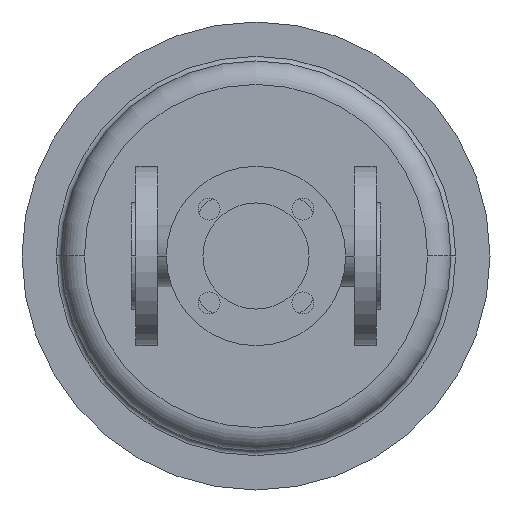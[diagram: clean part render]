
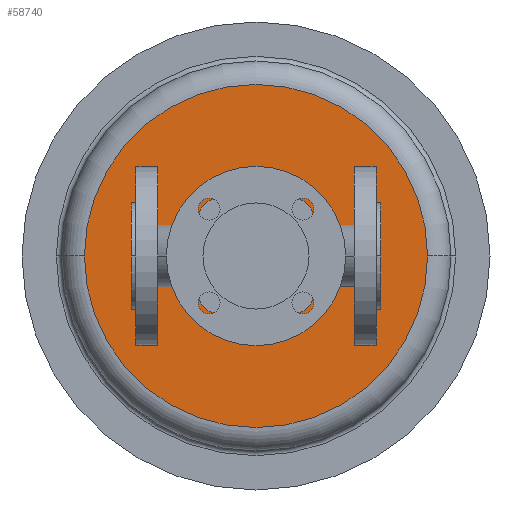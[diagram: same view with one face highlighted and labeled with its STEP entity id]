
A CAD part, front view. The second image highlights one B-rep face of the part: STEP entity #58740.
In plain terms, the highlighted planar face has unit normal (0, -1, 0).
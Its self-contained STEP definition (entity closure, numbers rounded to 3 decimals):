
#48650=CARTESIAN_POINT('',(190.,545.,0.));
#48660=VERTEX_POINT('',#48650);
#48690=CARTESIAN_POINT('',(80.,545.,0.));
#48700=DIRECTION('',(0.,1.,0.));
#48710=DIRECTION('',(1.,0.,0.));
#48720=AXIS2_PLACEMENT_3D('',#48690,#48700,#48710);
#48730=CIRCLE('',#48720,110.);
#48740=CARTESIAN_POINT('',(80.,545.,110.));
#48750=VERTEX_POINT('',#48740);
#48760=EDGE_CURVE('',#48750,#48660,#48730,.T.);
#48780=CARTESIAN_POINT('',(-30.,545.,0.));
#48790=VERTEX_POINT('',#48780);
#48800=EDGE_CURVE('',#48790,#48750,#48730,.T.);
#49460=CARTESIAN_POINT('',(115.,545.,0.));
#49470=VERTEX_POINT('',#49460);
#49630=CARTESIAN_POINT('',(145.,545.,0.));
#49640=VERTEX_POINT('',#49630);
#49670=CARTESIAN_POINT('',(130.,545.,0.));
#49680=DIRECTION('',(0.,1.,0.));
#49690=DIRECTION('',(1.,0.,0.));
#49700=AXIS2_PLACEMENT_3D('',#49670,#49680,#49690);
#49710=CIRCLE('',#49700,15.);
#49720=EDGE_CURVE('',#49640,#49470,#49710,.T.);
#49880=CARTESIAN_POINT('',(15.,545.,0.));
#49890=VERTEX_POINT('',#49880);
#49920=CARTESIAN_POINT('',(30.,545.,0.));
#49930=DIRECTION('',(0.,1.,0.));
#49940=DIRECTION('',(1.,0.,0.));
#49950=AXIS2_PLACEMENT_3D('',#49920,#49930,#49940);
#49960=CIRCLE('',#49950,15.);
#49970=CARTESIAN_POINT('',(45.,545.,0.));
#49980=VERTEX_POINT('',#49970);
#49990=EDGE_CURVE('',#49890,#49980,#49960,.T.);
#50280=CARTESIAN_POINT('',(98.45,545.,0.));
#50290=VERTEX_POINT('',#50280);
#50340=CARTESIAN_POINT('',(80.,545.,0.));
#50350=DIRECTION('',(0.,1.,0.));
#50360=DIRECTION('',(1.,0.,0.));
#50370=AXIS2_PLACEMENT_3D('',#50340,#50350,#50360);
#50380=CIRCLE('',#50370,18.45);
#50390=CARTESIAN_POINT('',(61.55,545.,0.));
#50400=VERTEX_POINT('',#50390);
#50410=EDGE_CURVE('',#50290,#50400,#50380,.T.);
#58480=CARTESIAN_POINT('',(135.,545.,0.));
#58490=DIRECTION('',(0.,-1.,0.));
#58500=DIRECTION('',(-1.,0.,0.));
#58510=AXIS2_PLACEMENT_3D('',#58480,#58490,#58500);
#58520=PLANE('',#58510);
#58530=EDGE_CURVE('',#50400,#50290,#50380,.T.);
#58540=ORIENTED_EDGE('',*,*,#58530,.T.);
#58550=ORIENTED_EDGE('',*,*,#50410,.T.);
#58560=EDGE_LOOP('',(#58550,#58540));
#58570=FACE_BOUND('',#58560,.T.);
#58580=ORIENTED_EDGE('',*,*,#49990,.T.);
#58590=EDGE_CURVE('',#49980,#49890,#49960,.T.);
#58600=ORIENTED_EDGE('',*,*,#58590,.T.);
#58610=EDGE_LOOP('',(#58600,#58580));
#58620=FACE_BOUND('',#58610,.T.);
#58630=EDGE_CURVE('',#49470,#49640,#49710,.T.);
#58640=ORIENTED_EDGE('',*,*,#58630,.T.);
#58650=ORIENTED_EDGE('',*,*,#49720,.T.);
#58660=EDGE_LOOP('',(#58650,#58640));
#58670=FACE_BOUND('',#58660,.T.);
#58680=ORIENTED_EDGE('',*,*,#48760,.F.);
#58690=EDGE_CURVE('',#48660,#48790,#48730,.T.);
#58700=ORIENTED_EDGE('',*,*,#58690,.F.);
#58710=ORIENTED_EDGE('',*,*,#48800,.F.);
#58720=EDGE_LOOP('',(#58710,#58700,#58680));
#58730=FACE_OUTER_BOUND('',#58720,.T.);
#58740=ADVANCED_FACE('',(#58570,#58620,#58670,#58730),#58520,.T.);
